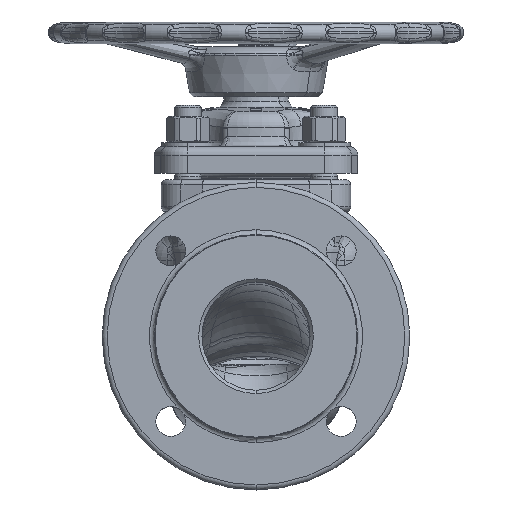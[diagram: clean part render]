
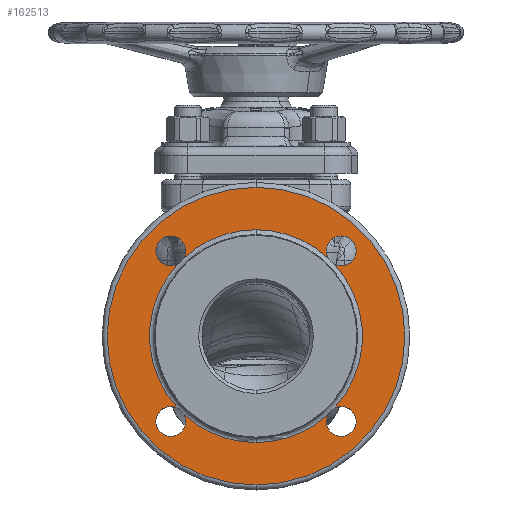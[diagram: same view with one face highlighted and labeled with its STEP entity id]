
A CAD part, left-side view. The second image highlights one B-rep face of the part: STEP entity #162513.
In plain terms, the highlighted planar face has unit normal (-1, 0, 0).
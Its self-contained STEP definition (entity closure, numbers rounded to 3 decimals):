
#41117=CARTESIAN_POINT('',(-142.,0.,0.));
#41118=DIRECTION('',(1.,0.,0.));
#41119=DIRECTION('',(0.,0.,-1.));
#41120=AXIS2_PLACEMENT_3D('',#41117,#41118,#41119);
#41122=CARTESIAN_POINT('',(-142.,0.,0.));
#41123=DIRECTION('',(1.,0.,0.));
#41124=DIRECTION('',(0.,0.,1.));
#41125=AXIS2_PLACEMENT_3D('',#41122,#41123,#41124);
#41127=CARTESIAN_POINT('',(-142.,-51.265,51.265));
#41128=DIRECTION('',(-1.,0.,0.));
#41129=DIRECTION('',(0.,-1.,0.));
#41130=AXIS2_PLACEMENT_3D('',#41127,#41128,#41129);
#41132=CARTESIAN_POINT('',(-142.,-51.265,51.265));
#41133=DIRECTION('',(-1.,0.,0.));
#41134=DIRECTION('',(0.,1.,0.));
#41135=AXIS2_PLACEMENT_3D('',#41132,#41133,#41134);
#41137=CARTESIAN_POINT('',(-142.,0.,0.));
#41138=DIRECTION('',(1.,0.,0.));
#41139=DIRECTION('',(0.,0.,1.));
#41140=AXIS2_PLACEMENT_3D('',#41137,#41138,#41139);
#41142=CARTESIAN_POINT('',(-142.,0.,0.));
#41143=DIRECTION('',(-1.,0.,0.));
#41144=DIRECTION('',(0.,0.,1.));
#41145=AXIS2_PLACEMENT_3D('',#41142,#41143,#41144);
#41147=CARTESIAN_POINT('',(-142.,51.265,51.265));
#41148=DIRECTION('',(-1.,0.,0.));
#41149=DIRECTION('',(0.,-0.891,-0.454));
#41150=AXIS2_PLACEMENT_3D('',#41147,#41148,#41149);
#41152=CARTESIAN_POINT('',(-142.,51.265,51.265));
#41153=DIRECTION('',(-1.,0.,0.));
#41154=DIRECTION('',(0.,-1.,0.));
#41155=AXIS2_PLACEMENT_3D('',#41152,#41153,#41154);
#41157=CARTESIAN_POINT('',(-142.,51.265,51.265));
#41158=DIRECTION('',(-1.,0.,0.));
#41159=DIRECTION('',(0.,1.,0.));
#41160=AXIS2_PLACEMENT_3D('',#41157,#41158,#41159);
#41162=CARTESIAN_POINT('',(-142.,0.,0.));
#41163=DIRECTION('',(-1.,0.,0.));
#41164=DIRECTION('',(0.,0.737,0.676));
#41165=AXIS2_PLACEMENT_3D('',#41162,#41163,#41164);
#41167=CARTESIAN_POINT('',(-142.,51.265,-51.265));
#41168=DIRECTION('',(-1.,0.,0.));
#41169=DIRECTION('',(0.,-0.454,0.891));
#41170=AXIS2_PLACEMENT_3D('',#41167,#41168,#41169);
#41172=CARTESIAN_POINT('',(-142.,51.265,-51.265));
#41173=DIRECTION('',(-1.,0.,0.));
#41174=DIRECTION('',(0.,1.,0.));
#41175=AXIS2_PLACEMENT_3D('',#41172,#41173,#41174);
#41177=CARTESIAN_POINT('',(-142.,51.265,-51.265));
#41178=DIRECTION('',(-1.,0.,0.));
#41179=DIRECTION('',(0.,-1.,0.));
#41180=AXIS2_PLACEMENT_3D('',#41177,#41178,#41179);
#41182=CARTESIAN_POINT('',(-142.,0.,0.));
#41183=DIRECTION('',(-1.,0.,0.));
#41184=DIRECTION('',(0.,0.676,-0.737));
#41185=AXIS2_PLACEMENT_3D('',#41182,#41183,#41184);
#41187=CARTESIAN_POINT('',(-142.,0.,0.));
#41188=DIRECTION('',(1.,0.,0.));
#41189=DIRECTION('',(0.,-0.676,-0.737));
#41190=AXIS2_PLACEMENT_3D('',#41187,#41188,#41189);
#41192=CARTESIAN_POINT('',(-142.,-51.265,-51.265));
#41193=DIRECTION('',(-1.,0.,0.));
#41194=DIRECTION('',(0.,0.891,0.454));
#41195=AXIS2_PLACEMENT_3D('',#41192,#41193,#41194);
#41197=CARTESIAN_POINT('',(-142.,-51.265,-51.265));
#41198=DIRECTION('',(-1.,0.,0.));
#41199=DIRECTION('',(0.,1.,0.));
#41200=AXIS2_PLACEMENT_3D('',#41197,#41198,#41199);
#41202=CARTESIAN_POINT('',(-142.,-51.265,-51.265));
#41203=DIRECTION('',(-1.,0.,0.));
#41204=DIRECTION('',(0.,-1.,0.));
#41205=AXIS2_PLACEMENT_3D('',#41202,#41203,#41204);
#41207=CARTESIAN_POINT('',(-142.,0.,0.));
#41208=DIRECTION('',(1.,0.,0.));
#41209=DIRECTION('',(0.,-0.737,0.676));
#41210=AXIS2_PLACEMENT_3D('',#41207,#41208,#41209);
#41212=CARTESIAN_POINT('',(-142.,-51.265,51.265));
#41213=DIRECTION('',(-1.,0.,0.));
#41214=DIRECTION('',(0.,0.454,-0.891));
#41215=AXIS2_PLACEMENT_3D('',#41212,#41213,#41214);
#41225=CARTESIAN_POINT('',(-142.,-47.177,43.247));
#41245=CARTESIAN_POINT('',(-142.,-43.247,-47.177));
#41288=CARTESIAN_POINT('',(-142.,47.177,-43.247));
#41306=CARTESIAN_POINT('',(-142.,43.247,-47.177));
#41308=CARTESIAN_POINT('',(-142.,43.247,47.177));
#41326=CARTESIAN_POINT('',(-142.,47.177,43.247));
#56690=CARTESIAN_POINT('',(-142.,0.,64.));
#56692=VERTEX_POINT('',#56690);
#56694=CARTESIAN_POINT('',(-142.,0.,-64.));
#56696=VERTEX_POINT('',#56694);
#56701=CARTESIAN_POINT('',(-142.,0.,-89.5));
#56702=CARTESIAN_POINT('',(-142.,0.,89.5));
#56703=VERTEX_POINT('',#56701);
#56704=VERTEX_POINT('',#56702);
#56777=VERTEX_POINT('',#41308);
#56778=VERTEX_POINT('',#41326);
#56779=CARTESIAN_POINT('',(-142.,42.265,51.265));
#56780=CARTESIAN_POINT('',(-142.,60.265,51.265));
#56781=VERTEX_POINT('',#56779);
#56782=VERTEX_POINT('',#56780);
#56787=VERTEX_POINT('',#41288);
#56788=VERTEX_POINT('',#41306);
#56789=CARTESIAN_POINT('',(-142.,42.265,-51.265));
#56790=VERTEX_POINT('',#56789);
#56791=CARTESIAN_POINT('',(-142.,60.265,-51.265));
#56792=VERTEX_POINT('',#56791);
#56797=CARTESIAN_POINT('',(-142.,-60.265,-51.265));
#56798=CARTESIAN_POINT('',(-142.,-47.177,-43.247));
#56799=VERTEX_POINT('',#56797);
#56800=VERTEX_POINT('',#56798);
#56801=CARTESIAN_POINT('',(-142.,-42.265,-51.265));
#56802=VERTEX_POINT('',#56801);
#56807=VERTEX_POINT('',#41245);
#56808=CARTESIAN_POINT('',(-142.,-60.265,51.265));
#56809=CARTESIAN_POINT('',(-142.,-42.265,51.265));
#56810=VERTEX_POINT('',#56808);
#56811=VERTEX_POINT('',#56809);
#56812=CARTESIAN_POINT('',(-142.,-43.247,47.177));
#56813=VERTEX_POINT('',#56812);
#56818=VERTEX_POINT('',#41225);
#162466=CARTESIAN_POINT('',(-142.,0.,0.));
#162467=DIRECTION('',(-1.,0.,0.));
#162468=DIRECTION('',(0.,0.,1.));
#162469=AXIS2_PLACEMENT_3D('',#162466,#162467,#162468);
#162470=PLANE('',#162469);
#162471=ORIENTED_EDGE('',*,*,#162448,.T.);
#162472=ORIENTED_EDGE('',*,*,#162433,.T.);
#162473=EDGE_LOOP('',(#162471,#162472));
#162474=FACE_OUTER_BOUND('',#162473,.F.);
#162476=ORIENTED_EDGE('',*,*,#162475,.T.);
#162478=ORIENTED_EDGE('',*,*,#162477,.T.);
#162480=ORIENTED_EDGE('',*,*,#162479,.F.);
#162482=ORIENTED_EDGE('',*,*,#162481,.T.);
#162484=ORIENTED_EDGE('',*,*,#162483,.T.);
#162486=ORIENTED_EDGE('',*,*,#162485,.T.);
#162488=ORIENTED_EDGE('',*,*,#162487,.T.);
#162490=ORIENTED_EDGE('',*,*,#162489,.T.);
#162492=ORIENTED_EDGE('',*,*,#162491,.T.);
#162494=ORIENTED_EDGE('',*,*,#162493,.T.);
#162496=ORIENTED_EDGE('',*,*,#162495,.T.);
#162498=ORIENTED_EDGE('',*,*,#162497,.T.);
#162500=ORIENTED_EDGE('',*,*,#162499,.F.);
#162502=ORIENTED_EDGE('',*,*,#162501,.T.);
#162504=ORIENTED_EDGE('',*,*,#162503,.T.);
#162506=ORIENTED_EDGE('',*,*,#162505,.T.);
#162508=ORIENTED_EDGE('',*,*,#162507,.F.);
#162510=ORIENTED_EDGE('',*,*,#162509,.T.);
#162511=EDGE_LOOP('',(#162476,#162478,#162480,#162482,#162484,#162486,#162488,
#162490,#162492,#162494,#162496,#162498,#162500,#162502,#162504,#162506,#162508,
#162510));
#162512=FACE_BOUND('',#162511,.F.);
#162513=ADVANCED_FACE('',(#162474,#162512),#162470,.T.);
#41121=CIRCLE('',#41120,89.5);
#41126=CIRCLE('',#41125,89.5);
#41131=CIRCLE('',#41130,9.);
#41136=CIRCLE('',#41135,9.);
#41141=CIRCLE('',#41140,64.);
#41146=CIRCLE('',#41145,64.);
#41151=CIRCLE('',#41150,9.);
#41156=CIRCLE('',#41155,9.);
#41161=CIRCLE('',#41160,9.);
#41166=CIRCLE('',#41165,64.);
#41171=CIRCLE('',#41170,9.);
#41176=CIRCLE('',#41175,9.);
#41181=CIRCLE('',#41180,9.);
#41186=CIRCLE('',#41185,64.);
#41191=CIRCLE('',#41190,64.);
#41196=CIRCLE('',#41195,9.);
#41201=CIRCLE('',#41200,9.);
#41206=CIRCLE('',#41205,9.);
#41211=CIRCLE('',#41210,64.);
#41216=CIRCLE('',#41215,9.);
#162433=EDGE_CURVE('',#56704,#56703,#41126,.T.);
#162448=EDGE_CURVE('',#56703,#56704,#41121,.T.);
#162475=EDGE_CURVE('',#56810,#56811,#41131,.T.);
#162477=EDGE_CURVE('',#56811,#56813,#41136,.T.);
#162479=EDGE_CURVE('',#56692,#56813,#41141,.T.);
#162481=EDGE_CURVE('',#56692,#56777,#41146,.T.);
#162483=EDGE_CURVE('',#56777,#56781,#41151,.T.);
#162485=EDGE_CURVE('',#56781,#56782,#41156,.T.);
#162487=EDGE_CURVE('',#56782,#56778,#41161,.T.);
#162489=EDGE_CURVE('',#56778,#56787,#41166,.T.);
#162491=EDGE_CURVE('',#56787,#56792,#41171,.T.);
#162493=EDGE_CURVE('',#56792,#56790,#41176,.T.);
#162495=EDGE_CURVE('',#56790,#56788,#41181,.T.);
#162497=EDGE_CURVE('',#56788,#56696,#41186,.T.);
#162499=EDGE_CURVE('',#56807,#56696,#41191,.T.);
#162501=EDGE_CURVE('',#56807,#56802,#41196,.T.);
#162503=EDGE_CURVE('',#56802,#56799,#41201,.T.);
#162505=EDGE_CURVE('',#56799,#56800,#41206,.T.);
#162507=EDGE_CURVE('',#56818,#56800,#41211,.T.);
#162509=EDGE_CURVE('',#56818,#56810,#41216,.T.);
